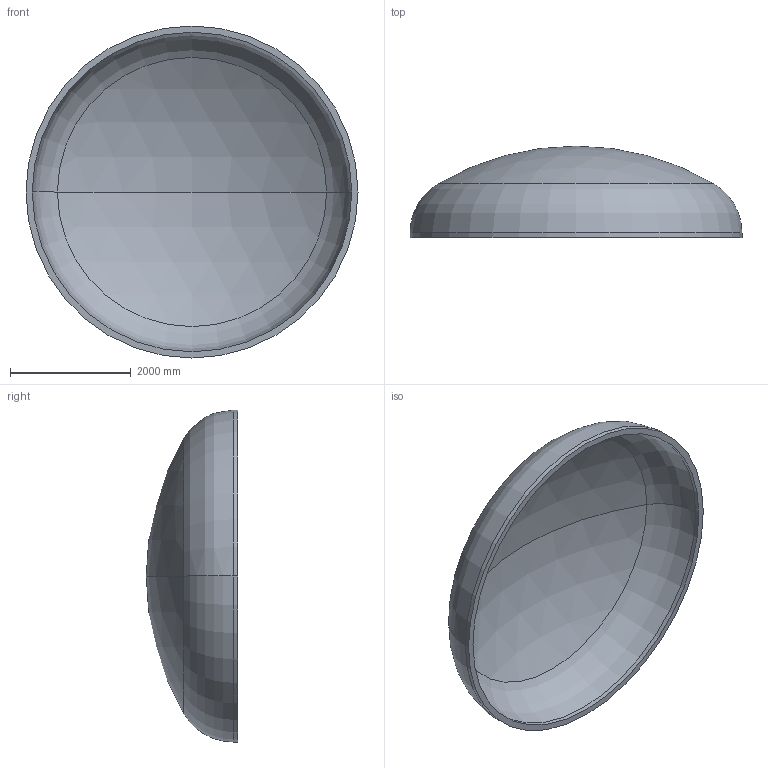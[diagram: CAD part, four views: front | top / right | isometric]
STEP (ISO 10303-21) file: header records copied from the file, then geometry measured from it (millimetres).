
FILE_DESCRIPTION (( 'STEP AP203' ), '1' );
FILE_NAME ('DIN 28013 Korbbogenform_-_Boden DIN 28013 - 5500 x 75 - I - s=104.step', '2016-07-04T10:35:13', ( '' ), ( '' ), 'SwSTEP 2.0', 'SolidWorks 2013', '' );
FILE_SCHEMA (( 'CONFIG_CONTROL_DESIGN' ));
Length unit declared in the file: millimetre
Products named in the file (1): DIN 28013 Korbbogenform_-_Boden DIN 28013 - 5500 x 75 - I - s=104
Bounding box: 5500 x 1513.97 x 5500 mm (x, y, z)
Volume: 3468571722.5 mm3; surface area: 68488942.1 mm2
Topology: 1 solids, 1 shells, 13 faces, 24 edges, 14 vertices
Faces by surface type: torus 4, cylinder 4, sphere 4, plane 1
Entity records: 407 total; most frequent: DIRECTION 72, CARTESIAN_POINT 52, ORIENTED_EDGE 48, AXIS2_PLACEMENT_3D 34, EDGE_CURVE 24, CIRCLE 20, EDGE_LOOP 14, VERTEX_POINT 14
